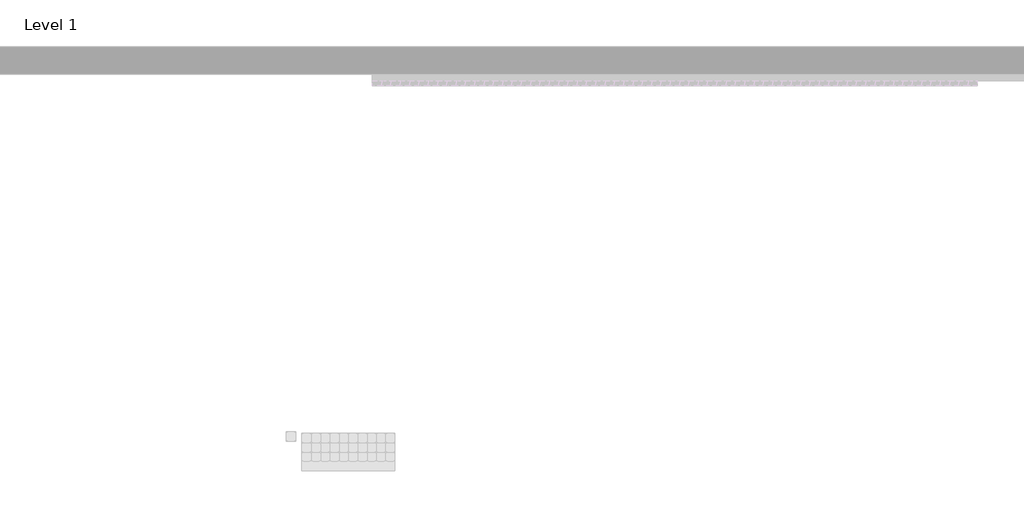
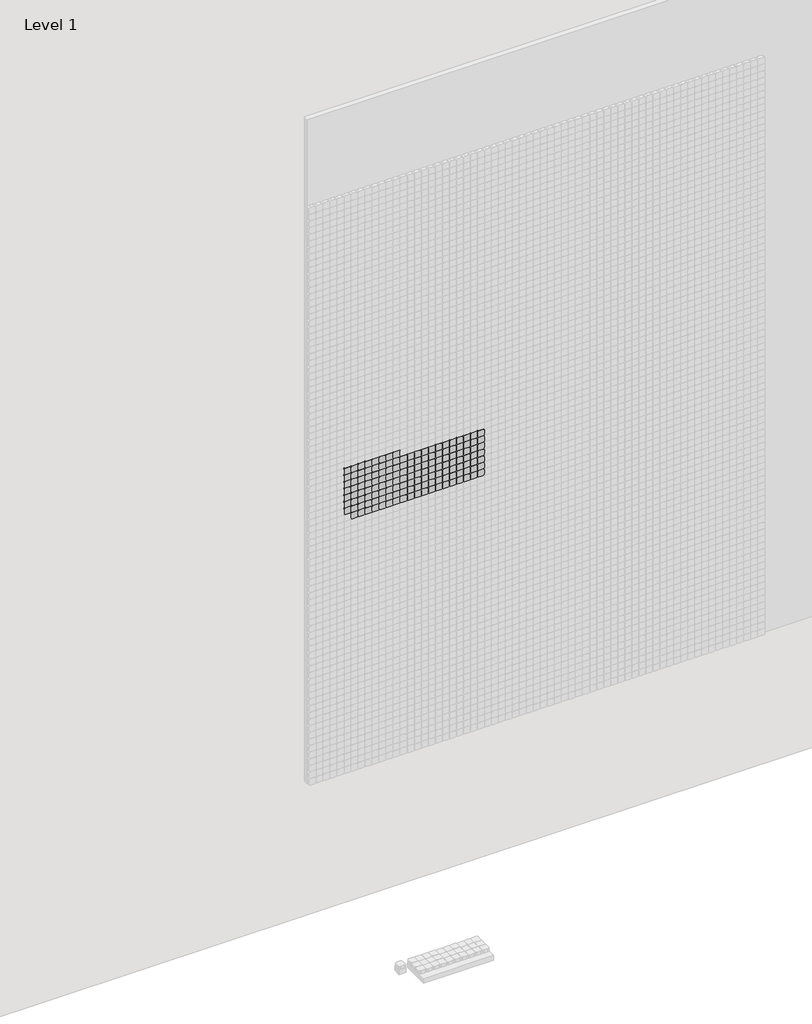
# One storey, part 15 of 71: 147 proxies.
"""IFC4 building model written with IfcOpenShell, lengths in millimetres."""

from ifc_helpers import new_model, si_unit, origin, place, context, project, spatial, transform, mapped, element, save
from components import generic_models_afde289c

model = new_model("IFC4")

# Units and contexts
model_context = context("Model", 3, world=origin())
ifc_project = project(units=[si_unit("LENGTHUNIT", "METRE", prefix="MILLI")], contexts=[model_context])

# Site, building, storey
site = spatial("IfcSite", under=ifc_project)
building = spatial("IfcBuilding", under=site)
storey = spatial("IfcBuildingStorey", under=building, Name="Level 1", Elevation=0.0)

# Proxies
placement = place(None, origin())
generic_models_shape = generic_models_afde289c(model_context)
element("IfcBuildingElementProxy", 1, Name="Pixel_M : Pixel_M", ObjectType="Pixel_M : Pixel_M", at=placement, inside=storey, context=model_context, shape_type="MappedRepresentation", body=[
    mapped(generic_models_shape, transform((5362.4280941, -75.0, 3266.3566215), x_axis=(1.0, 0.0, 0.0), y_axis=(0.0, 0.0, 1.0), z_axis=(0.0, -1.0, 0.0))),
])
element("IfcBuildingElementProxy", 2, Name="Pixel_M : Pixel_M", ObjectType="Pixel_M : Pixel_M", at=placement, inside=storey, context=model_context, shape_type="MappedRepresentation", body=[
    mapped(generic_models_shape, transform((5312.4280941, -75.0, 3266.3566215), x_axis=(1.0, 0.0, 0.0), y_axis=(0.0, 0.0, 1.0), z_axis=(0.0, -1.0, 0.0))),
])
element("IfcBuildingElementProxy", 3, Name="Pixel_M : Pixel_M", ObjectType="Pixel_M : Pixel_M", at=placement, inside=storey, context=model_context, shape_type="MappedRepresentation", body=[
    mapped(generic_models_shape, transform((5262.4280941, -75.0, 3266.3566215), x_axis=(1.0, 0.0, 0.0), y_axis=(0.0, 0.0, 1.0), z_axis=(0.0, -1.0, 0.0))),
])
element("IfcBuildingElementProxy", 4, Name="Pixel_M : Pixel_M", ObjectType="Pixel_M : Pixel_M", at=placement, inside=storey, context=model_context, shape_type="MappedRepresentation", body=[
    mapped(generic_models_shape, transform((5212.4280941, -75.0, 3266.3566215), x_axis=(1.0, 0.0, 0.0), y_axis=(0.0, 0.0, 1.0), z_axis=(0.0, -1.0, 0.0))),
])
element("IfcBuildingElementProxy", 5, Name="Pixel_M : Pixel_M", ObjectType="Pixel_M : Pixel_M", at=placement, inside=storey, context=model_context, shape_type="MappedRepresentation", body=[
    mapped(generic_models_shape, transform((5162.4280941, -75.0, 3266.3566215), x_axis=(1.0, 0.0, 0.0), y_axis=(0.0, 0.0, 1.0), z_axis=(0.0, -1.0, 0.0))),
])
element("IfcBuildingElementProxy", 6, Name="Pixel_M : Pixel_M", ObjectType="Pixel_M : Pixel_M", at=placement, inside=storey, context=model_context, shape_type="MappedRepresentation", body=[
    mapped(generic_models_shape, transform((5112.4280941, -75.0, 3266.3566215), x_axis=(1.0, 0.0, 0.0), y_axis=(0.0, 0.0, 1.0), z_axis=(0.0, -1.0, 0.0))),
])
element("IfcBuildingElementProxy", 7, Name="Pixel_M : Pixel_M", ObjectType="Pixel_M : Pixel_M", at=placement, inside=storey, context=model_context, shape_type="MappedRepresentation", body=[
    mapped(generic_models_shape, transform((5062.4280941, -75.0, 3266.3566215), x_axis=(1.0, 0.0, 0.0), y_axis=(0.0, 0.0, 1.0), z_axis=(0.0, -1.0, 0.0))),
])
element("IfcBuildingElementProxy", 8, Name="Pixel_M : Pixel_M", ObjectType="Pixel_M : Pixel_M", at=placement, inside=storey, context=model_context, shape_type="MappedRepresentation", body=[
    mapped(generic_models_shape, transform((5012.4280941, -75.0, 3266.3566215), x_axis=(1.0, 0.0, 0.0), y_axis=(0.0, 0.0, 1.0), z_axis=(0.0, -1.0, 0.0))),
])
element("IfcBuildingElementProxy", 9, Name="Pixel_M : Pixel_M", ObjectType="Pixel_M : Pixel_M", at=placement, inside=storey, context=model_context, shape_type="MappedRepresentation", body=[
    mapped(generic_models_shape, transform((5962.4280941, -75.0, 3216.3566215), x_axis=(1.0, 0.0, 0.0), y_axis=(0.0, 0.0, 1.0), z_axis=(0.0, -1.0, 0.0))),
])
element("IfcBuildingElementProxy", 10, Name="Pixel_M : Pixel_M", ObjectType="Pixel_M : Pixel_M", at=placement, inside=storey, context=model_context, shape_type="MappedRepresentation", body=[
    mapped(generic_models_shape, transform((5912.4280941, -75.0, 3216.3566215), x_axis=(1.0, 0.0, 0.0), y_axis=(0.0, 0.0, 1.0), z_axis=(0.0, -1.0, 0.0))),
])
element("IfcBuildingElementProxy", 11, Name="Pixel_M : Pixel_M", ObjectType="Pixel_M : Pixel_M", at=placement, inside=storey, context=model_context, shape_type="MappedRepresentation", body=[
    mapped(generic_models_shape, transform((5862.4280941, -75.0, 3216.3566215), x_axis=(1.0, 0.0, 0.0), y_axis=(0.0, 0.0, 1.0), z_axis=(0.0, -1.0, 0.0))),
])
element("IfcBuildingElementProxy", 12, Name="Pixel_M : Pixel_M", ObjectType="Pixel_M : Pixel_M", at=placement, inside=storey, context=model_context, shape_type="MappedRepresentation", body=[
    mapped(generic_models_shape, transform((5812.4280941, -75.0, 3216.3566215), x_axis=(1.0, 0.0, 0.0), y_axis=(0.0, 0.0, 1.0), z_axis=(0.0, -1.0, 0.0))),
])
element("IfcBuildingElementProxy", 13, Name="Pixel_M : Pixel_M", ObjectType="Pixel_M : Pixel_M", at=placement, inside=storey, context=model_context, shape_type="MappedRepresentation", body=[
    mapped(generic_models_shape, transform((5762.4280941, -75.0, 3216.3566215), x_axis=(1.0, 0.0, 0.0), y_axis=(0.0, 0.0, 1.0), z_axis=(0.0, -1.0, 0.0))),
])
element("IfcBuildingElementProxy", 14, Name="Pixel_M : Pixel_M", ObjectType="Pixel_M : Pixel_M", at=placement, inside=storey, context=model_context, shape_type="MappedRepresentation", body=[
    mapped(generic_models_shape, transform((5712.4280941, -75.0, 3216.3566215), x_axis=(1.0, 0.0, 0.0), y_axis=(0.0, 0.0, 1.0), z_axis=(0.0, -1.0, 0.0))),
])
element("IfcBuildingElementProxy", 15, Name="Pixel_M : Pixel_M", ObjectType="Pixel_M : Pixel_M", at=placement, inside=storey, context=model_context, shape_type="MappedRepresentation", body=[
    mapped(generic_models_shape, transform((5662.4280941, -75.0, 3216.3566215), x_axis=(1.0, 0.0, 0.0), y_axis=(0.0, 0.0, 1.0), z_axis=(0.0, -1.0, 0.0))),
])
element("IfcBuildingElementProxy", 16, Name="Pixel_M : Pixel_M", ObjectType="Pixel_M : Pixel_M", at=placement, inside=storey, context=model_context, shape_type="MappedRepresentation", body=[
    mapped(generic_models_shape, transform((5612.4280941, -75.0, 3216.3566215), x_axis=(1.0, 0.0, 0.0), y_axis=(0.0, 0.0, 1.0), z_axis=(0.0, -1.0, 0.0))),
])
element("IfcBuildingElementProxy", 17, Name="Pixel_M : Pixel_M", ObjectType="Pixel_M : Pixel_M", at=placement, inside=storey, context=model_context, shape_type="MappedRepresentation", body=[
    mapped(generic_models_shape, transform((5562.4280941, -75.0, 3216.3566215), x_axis=(1.0, 0.0, 0.0), y_axis=(0.0, 0.0, 1.0), z_axis=(0.0, -1.0, 0.0))),
])
element("IfcBuildingElementProxy", 18, Name="Pixel_M : Pixel_M", ObjectType="Pixel_M : Pixel_M", at=placement, inside=storey, context=model_context, shape_type="MappedRepresentation", body=[
    mapped(generic_models_shape, transform((5512.4280941, -75.0, 3216.3566215), x_axis=(1.0, 0.0, 0.0), y_axis=(0.0, 0.0, 1.0), z_axis=(0.0, -1.0, 0.0))),
])
element("IfcBuildingElementProxy", 19, Name="Pixel_M : Pixel_M", ObjectType="Pixel_M : Pixel_M", at=placement, inside=storey, context=model_context, shape_type="MappedRepresentation", body=[
    mapped(generic_models_shape, transform((5462.4280941, -75.0, 3216.3566215), x_axis=(1.0, 0.0, 0.0), y_axis=(0.0, 0.0, 1.0), z_axis=(0.0, -1.0, 0.0))),
])
element("IfcBuildingElementProxy", 20, Name="Pixel_M : Pixel_M", ObjectType="Pixel_M : Pixel_M", at=placement, inside=storey, context=model_context, shape_type="MappedRepresentation", body=[
    mapped(generic_models_shape, transform((5412.4280941, -75.0, 3216.3566215), x_axis=(1.0, 0.0, 0.0), y_axis=(0.0, 0.0, 1.0), z_axis=(0.0, -1.0, 0.0))),
])
element("IfcBuildingElementProxy", 21, Name="Pixel_M : Pixel_M", ObjectType="Pixel_M : Pixel_M", at=placement, inside=storey, context=model_context, shape_type="MappedRepresentation", body=[
    mapped(generic_models_shape, transform((5362.4280941, -75.0, 3216.3566215), x_axis=(1.0, 0.0, 0.0), y_axis=(0.0, 0.0, 1.0), z_axis=(0.0, -1.0, 0.0))),
])
element("IfcBuildingElementProxy", 22, Name="Pixel_M : Pixel_M", ObjectType="Pixel_M : Pixel_M", at=placement, inside=storey, context=model_context, shape_type="MappedRepresentation", body=[
    mapped(generic_models_shape, transform((5312.4280941, -75.0, 3216.3566215), x_axis=(1.0, 0.0, 0.0), y_axis=(0.0, 0.0, 1.0), z_axis=(0.0, -1.0, 0.0))),
])
element("IfcBuildingElementProxy", 23, Name="Pixel_M : Pixel_M", ObjectType="Pixel_M : Pixel_M", at=placement, inside=storey, context=model_context, shape_type="MappedRepresentation", body=[
    mapped(generic_models_shape, transform((5262.4280941, -75.0, 3216.3566215), x_axis=(1.0, 0.0, 0.0), y_axis=(0.0, 0.0, 1.0), z_axis=(0.0, -1.0, 0.0))),
])
element("IfcBuildingElementProxy", 24, Name="Pixel_M : Pixel_M", ObjectType="Pixel_M : Pixel_M", at=placement, inside=storey, context=model_context, shape_type="MappedRepresentation", body=[
    mapped(generic_models_shape, transform((5212.4280941, -75.0, 3216.3566215), x_axis=(1.0, 0.0, 0.0), y_axis=(0.0, 0.0, 1.0), z_axis=(0.0, -1.0, 0.0))),
])
element("IfcBuildingElementProxy", 25, Name="Pixel_M : Pixel_M", ObjectType="Pixel_M : Pixel_M", at=placement, inside=storey, context=model_context, shape_type="MappedRepresentation", body=[
    mapped(generic_models_shape, transform((5162.4280941, -75.0, 3216.3566215), x_axis=(1.0, 0.0, 0.0), y_axis=(0.0, 0.0, 1.0), z_axis=(0.0, -1.0, 0.0))),
])
element("IfcBuildingElementProxy", 26, Name="Pixel_M : Pixel_M", ObjectType="Pixel_M : Pixel_M", at=placement, inside=storey, context=model_context, shape_type="MappedRepresentation", body=[
    mapped(generic_models_shape, transform((5112.4280941, -75.0, 3216.3566215), x_axis=(1.0, 0.0, 0.0), y_axis=(0.0, 0.0, 1.0), z_axis=(0.0, -1.0, 0.0))),
])
element("IfcBuildingElementProxy", 27, Name="Pixel_M : Pixel_M", ObjectType="Pixel_M : Pixel_M", at=placement, inside=storey, context=model_context, shape_type="MappedRepresentation", body=[
    mapped(generic_models_shape, transform((5062.4280941, -75.0, 3216.3566215), x_axis=(1.0, 0.0, 0.0), y_axis=(0.0, 0.0, 1.0), z_axis=(0.0, -1.0, 0.0))),
])
element("IfcBuildingElementProxy", 28, Name="Pixel_M : Pixel_M", ObjectType="Pixel_M : Pixel_M", at=placement, inside=storey, context=model_context, shape_type="MappedRepresentation", body=[
    mapped(generic_models_shape, transform((5012.4280941, -75.0, 3216.3566215), x_axis=(1.0, 0.0, 0.0), y_axis=(0.0, 0.0, 1.0), z_axis=(0.0, -1.0, 0.0))),
])
element("IfcBuildingElementProxy", 29, Name="Pixel_M : Pixel_M", ObjectType="Pixel_M : Pixel_M", at=placement, inside=storey, context=model_context, shape_type="MappedRepresentation", body=[
    mapped(generic_models_shape, transform((5962.4280941, -75.0, 3166.3566215), x_axis=(1.0, 0.0, 0.0), y_axis=(0.0, 0.0, 1.0), z_axis=(0.0, -1.0, 0.0))),
])
element("IfcBuildingElementProxy", 30, Name="Pixel_M : Pixel_M", ObjectType="Pixel_M : Pixel_M", at=placement, inside=storey, context=model_context, shape_type="MappedRepresentation", body=[
    mapped(generic_models_shape, transform((5912.4280941, -75.0, 3166.3566215), x_axis=(1.0, 0.0, 0.0), y_axis=(0.0, 0.0, 1.0), z_axis=(0.0, -1.0, 0.0))),
])
element("IfcBuildingElementProxy", 31, Name="Pixel_M : Pixel_M", ObjectType="Pixel_M : Pixel_M", at=placement, inside=storey, context=model_context, shape_type="MappedRepresentation", body=[
    mapped(generic_models_shape, transform((5862.4280941, -75.0, 3166.3566215), x_axis=(1.0, 0.0, 0.0), y_axis=(0.0, 0.0, 1.0), z_axis=(0.0, -1.0, 0.0))),
])
element("IfcBuildingElementProxy", 32, Name="Pixel_M : Pixel_M", ObjectType="Pixel_M : Pixel_M", at=placement, inside=storey, context=model_context, shape_type="MappedRepresentation", body=[
    mapped(generic_models_shape, transform((5812.4280941, -75.0, 3166.3566215), x_axis=(1.0, 0.0, 0.0), y_axis=(0.0, 0.0, 1.0), z_axis=(0.0, -1.0, 0.0))),
])
element("IfcBuildingElementProxy", 33, Name="Pixel_M : Pixel_M", ObjectType="Pixel_M : Pixel_M", at=placement, inside=storey, context=model_context, shape_type="MappedRepresentation", body=[
    mapped(generic_models_shape, transform((5762.4280941, -75.0, 3166.3566215), x_axis=(1.0, 0.0, 0.0), y_axis=(0.0, 0.0, 1.0), z_axis=(0.0, -1.0, 0.0))),
])
element("IfcBuildingElementProxy", 34, Name="Pixel_M : Pixel_M", ObjectType="Pixel_M : Pixel_M", at=placement, inside=storey, context=model_context, shape_type="MappedRepresentation", body=[
    mapped(generic_models_shape, transform((5712.4280941, -75.0, 3166.3566215), x_axis=(1.0, 0.0, 0.0), y_axis=(0.0, 0.0, 1.0), z_axis=(0.0, -1.0, 0.0))),
])
element("IfcBuildingElementProxy", 35, Name="Pixel_M : Pixel_M", ObjectType="Pixel_M : Pixel_M", at=placement, inside=storey, context=model_context, shape_type="MappedRepresentation", body=[
    mapped(generic_models_shape, transform((5662.4280941, -75.0, 3166.3566215), x_axis=(1.0, 0.0, 0.0), y_axis=(0.0, 0.0, 1.0), z_axis=(0.0, -1.0, 0.0))),
])
element("IfcBuildingElementProxy", 36, Name="Pixel_M : Pixel_M", ObjectType="Pixel_M : Pixel_M", at=placement, inside=storey, context=model_context, shape_type="MappedRepresentation", body=[
    mapped(generic_models_shape, transform((5612.4280941, -75.0, 3166.3566215), x_axis=(1.0, 0.0, 0.0), y_axis=(0.0, 0.0, 1.0), z_axis=(0.0, -1.0, 0.0))),
])
element("IfcBuildingElementProxy", 37, Name="Pixel_M : Pixel_M", ObjectType="Pixel_M : Pixel_M", at=placement, inside=storey, context=model_context, shape_type="MappedRepresentation", body=[
    mapped(generic_models_shape, transform((5562.4280941, -75.0, 3166.3566215), x_axis=(1.0, 0.0, 0.0), y_axis=(0.0, 0.0, 1.0), z_axis=(0.0, -1.0, 0.0))),
])
element("IfcBuildingElementProxy", 38, Name="Pixel_M : Pixel_M", ObjectType="Pixel_M : Pixel_M", at=placement, inside=storey, context=model_context, shape_type="MappedRepresentation", body=[
    mapped(generic_models_shape, transform((5512.4280941, -75.0, 3166.3566215), x_axis=(1.0, 0.0, 0.0), y_axis=(0.0, 0.0, 1.0), z_axis=(0.0, -1.0, 0.0))),
])
element("IfcBuildingElementProxy", 39, Name="Pixel_M : Pixel_M", ObjectType="Pixel_M : Pixel_M", at=placement, inside=storey, context=model_context, shape_type="MappedRepresentation", body=[
    mapped(generic_models_shape, transform((5462.4280941, -75.0, 3166.3566215), x_axis=(1.0, 0.0, 0.0), y_axis=(0.0, 0.0, 1.0), z_axis=(0.0, -1.0, 0.0))),
])
element("IfcBuildingElementProxy", 40, Name="Pixel_M : Pixel_M", ObjectType="Pixel_M : Pixel_M", at=placement, inside=storey, context=model_context, shape_type="MappedRepresentation", body=[
    mapped(generic_models_shape, transform((5412.4280941, -75.0, 3166.3566215), x_axis=(1.0, 0.0, 0.0), y_axis=(0.0, 0.0, 1.0), z_axis=(0.0, -1.0, 0.0))),
])
element("IfcBuildingElementProxy", 41, Name="Pixel_M : Pixel_M", ObjectType="Pixel_M : Pixel_M", at=placement, inside=storey, context=model_context, shape_type="MappedRepresentation", body=[
    mapped(generic_models_shape, transform((5362.4280941, -75.0, 3166.3566215), x_axis=(1.0, 0.0, 0.0), y_axis=(0.0, 0.0, 1.0), z_axis=(0.0, -1.0, 0.0))),
])
element("IfcBuildingElementProxy", 42, Name="Pixel_M : Pixel_M", ObjectType="Pixel_M : Pixel_M", at=placement, inside=storey, context=model_context, shape_type="MappedRepresentation", body=[
    mapped(generic_models_shape, transform((5312.4280941, -75.0, 3166.3566215), x_axis=(1.0, 0.0, 0.0), y_axis=(0.0, 0.0, 1.0), z_axis=(0.0, -1.0, 0.0))),
])
element("IfcBuildingElementProxy", 43, Name="Pixel_M : Pixel_M", ObjectType="Pixel_M : Pixel_M", at=placement, inside=storey, context=model_context, shape_type="MappedRepresentation", body=[
    mapped(generic_models_shape, transform((5262.4280941, -75.0, 3166.3566215), x_axis=(1.0, 0.0, 0.0), y_axis=(0.0, 0.0, 1.0), z_axis=(0.0, -1.0, 0.0))),
])
element("IfcBuildingElementProxy", 44, Name="Pixel_M : Pixel_M", ObjectType="Pixel_M : Pixel_M", at=placement, inside=storey, context=model_context, shape_type="MappedRepresentation", body=[
    mapped(generic_models_shape, transform((5212.4280941, -75.0, 3166.3566215), x_axis=(1.0, 0.0, 0.0), y_axis=(0.0, 0.0, 1.0), z_axis=(0.0, -1.0, 0.0))),
])
element("IfcBuildingElementProxy", 45, Name="Pixel_M : Pixel_M", ObjectType="Pixel_M : Pixel_M", at=placement, inside=storey, context=model_context, shape_type="MappedRepresentation", body=[
    mapped(generic_models_shape, transform((5162.4280941, -75.0, 3166.3566215), x_axis=(1.0, 0.0, 0.0), y_axis=(0.0, 0.0, 1.0), z_axis=(0.0, -1.0, 0.0))),
])
element("IfcBuildingElementProxy", 46, Name="Pixel_M : Pixel_M", ObjectType="Pixel_M : Pixel_M", at=placement, inside=storey, context=model_context, shape_type="MappedRepresentation", body=[
    mapped(generic_models_shape, transform((5112.4280941, -75.0, 3166.3566215), x_axis=(1.0, 0.0, 0.0), y_axis=(0.0, 0.0, 1.0), z_axis=(0.0, -1.0, 0.0))),
])
element("IfcBuildingElementProxy", 47, Name="Pixel_M : Pixel_M", ObjectType="Pixel_M : Pixel_M", at=placement, inside=storey, context=model_context, shape_type="MappedRepresentation", body=[
    mapped(generic_models_shape, transform((5062.4280941, -75.0, 3166.3566215), x_axis=(1.0, 0.0, 0.0), y_axis=(0.0, 0.0, 1.0), z_axis=(0.0, -1.0, 0.0))),
])
element("IfcBuildingElementProxy", 48, Name="Pixel_M : Pixel_M", ObjectType="Pixel_M : Pixel_M", at=placement, inside=storey, context=model_context, shape_type="MappedRepresentation", body=[
    mapped(generic_models_shape, transform((5012.4280941, -75.0, 3166.3566215), x_axis=(1.0, 0.0, 0.0), y_axis=(0.0, 0.0, 1.0), z_axis=(0.0, -1.0, 0.0))),
])
element("IfcBuildingElementProxy", 49, Name="Pixel_M : Pixel_M", ObjectType="Pixel_M : Pixel_M", at=placement, inside=storey, context=model_context, shape_type="MappedRepresentation", body=[
    mapped(generic_models_shape, transform((5962.4280941, -75.0, 3116.3566215), x_axis=(1.0, 0.0, 0.0), y_axis=(0.0, 0.0, 1.0), z_axis=(0.0, -1.0, 0.0))),
])
element("IfcBuildingElementProxy", 50, Name="Pixel_M : Pixel_M", ObjectType="Pixel_M : Pixel_M", at=placement, inside=storey, context=model_context, shape_type="MappedRepresentation", body=[
    mapped(generic_models_shape, transform((5912.4280941, -75.0, 3116.3566215), x_axis=(1.0, 0.0, 0.0), y_axis=(0.0, 0.0, 1.0), z_axis=(0.0, -1.0, 0.0))),
])
element("IfcBuildingElementProxy", 51, Name="Pixel_M : Pixel_M", ObjectType="Pixel_M : Pixel_M", at=placement, inside=storey, context=model_context, shape_type="MappedRepresentation", body=[
    mapped(generic_models_shape, transform((5862.4280941, -75.0, 3116.3566215), x_axis=(1.0, 0.0, 0.0), y_axis=(0.0, 0.0, 1.0), z_axis=(0.0, -1.0, 0.0))),
])
element("IfcBuildingElementProxy", 52, Name="Pixel_M : Pixel_M", ObjectType="Pixel_M : Pixel_M", at=placement, inside=storey, context=model_context, shape_type="MappedRepresentation", body=[
    mapped(generic_models_shape, transform((5812.4280941, -75.0, 3116.3566215), x_axis=(1.0, 0.0, 0.0), y_axis=(0.0, 0.0, 1.0), z_axis=(0.0, -1.0, 0.0))),
])
element("IfcBuildingElementProxy", 53, Name="Pixel_M : Pixel_M", ObjectType="Pixel_M : Pixel_M", at=placement, inside=storey, context=model_context, shape_type="MappedRepresentation", body=[
    mapped(generic_models_shape, transform((5762.4280941, -75.0, 3116.3566215), x_axis=(1.0, 0.0, 0.0), y_axis=(0.0, 0.0, 1.0), z_axis=(0.0, -1.0, 0.0))),
])
element("IfcBuildingElementProxy", 54, Name="Pixel_M : Pixel_M", ObjectType="Pixel_M : Pixel_M", at=placement, inside=storey, context=model_context, shape_type="MappedRepresentation", body=[
    mapped(generic_models_shape, transform((5712.4280941, -75.0, 3116.3566215), x_axis=(1.0, 0.0, 0.0), y_axis=(0.0, 0.0, 1.0), z_axis=(0.0, -1.0, 0.0))),
])
element("IfcBuildingElementProxy", 55, Name="Pixel_M : Pixel_M", ObjectType="Pixel_M : Pixel_M", at=placement, inside=storey, context=model_context, shape_type="MappedRepresentation", body=[
    mapped(generic_models_shape, transform((5662.4280941, -75.0, 3116.3566215), x_axis=(1.0, 0.0, 0.0), y_axis=(0.0, 0.0, 1.0), z_axis=(0.0, -1.0, 0.0))),
])
element("IfcBuildingElementProxy", 56, Name="Pixel_M : Pixel_M", ObjectType="Pixel_M : Pixel_M", at=placement, inside=storey, context=model_context, shape_type="MappedRepresentation", body=[
    mapped(generic_models_shape, transform((5612.4280941, -75.0, 3116.3566215), x_axis=(1.0, 0.0, 0.0), y_axis=(0.0, 0.0, 1.0), z_axis=(0.0, -1.0, 0.0))),
])
element("IfcBuildingElementProxy", 57, Name="Pixel_M : Pixel_M", ObjectType="Pixel_M : Pixel_M", at=placement, inside=storey, context=model_context, shape_type="MappedRepresentation", body=[
    mapped(generic_models_shape, transform((5562.4280941, -75.0, 3116.3566215), x_axis=(1.0, 0.0, 0.0), y_axis=(0.0, 0.0, 1.0), z_axis=(0.0, -1.0, 0.0))),
])
element("IfcBuildingElementProxy", 58, Name="Pixel_M : Pixel_M", ObjectType="Pixel_M : Pixel_M", at=placement, inside=storey, context=model_context, shape_type="MappedRepresentation", body=[
    mapped(generic_models_shape, transform((5512.4280941, -75.0, 3116.3566215), x_axis=(1.0, 0.0, 0.0), y_axis=(0.0, 0.0, 1.0), z_axis=(0.0, -1.0, 0.0))),
])
element("IfcBuildingElementProxy", 59, Name="Pixel_M : Pixel_M", ObjectType="Pixel_M : Pixel_M", at=placement, inside=storey, context=model_context, shape_type="MappedRepresentation", body=[
    mapped(generic_models_shape, transform((5462.4280941, -75.0, 3116.3566215), x_axis=(1.0, 0.0, 0.0), y_axis=(0.0, 0.0, 1.0), z_axis=(0.0, -1.0, 0.0))),
])
element("IfcBuildingElementProxy", 60, Name="Pixel_M : Pixel_M", ObjectType="Pixel_M : Pixel_M", at=placement, inside=storey, context=model_context, shape_type="MappedRepresentation", body=[
    mapped(generic_models_shape, transform((5412.4280941, -75.0, 3116.3566215), x_axis=(1.0, 0.0, 0.0), y_axis=(0.0, 0.0, 1.0), z_axis=(0.0, -1.0, 0.0))),
])
element("IfcBuildingElementProxy", 61, Name="Pixel_M : Pixel_M", ObjectType="Pixel_M : Pixel_M", at=placement, inside=storey, context=model_context, shape_type="MappedRepresentation", body=[
    mapped(generic_models_shape, transform((5362.4280941, -75.0, 3116.3566215), x_axis=(1.0, 0.0, 0.0), y_axis=(0.0, 0.0, 1.0), z_axis=(0.0, -1.0, 0.0))),
])
element("IfcBuildingElementProxy", 62, Name="Pixel_M : Pixel_M", ObjectType="Pixel_M : Pixel_M", at=placement, inside=storey, context=model_context, shape_type="MappedRepresentation", body=[
    mapped(generic_models_shape, transform((5312.4280941, -75.0, 3116.3566215), x_axis=(1.0, 0.0, 0.0), y_axis=(0.0, 0.0, 1.0), z_axis=(0.0, -1.0, 0.0))),
])
element("IfcBuildingElementProxy", 63, Name="Pixel_M : Pixel_M", ObjectType="Pixel_M : Pixel_M", at=placement, inside=storey, context=model_context, shape_type="MappedRepresentation", body=[
    mapped(generic_models_shape, transform((5262.4280941, -75.0, 3116.3566215), x_axis=(1.0, 0.0, 0.0), y_axis=(0.0, 0.0, 1.0), z_axis=(0.0, -1.0, 0.0))),
])
element("IfcBuildingElementProxy", 64, Name="Pixel_M : Pixel_M", ObjectType="Pixel_M : Pixel_M", at=placement, inside=storey, context=model_context, shape_type="MappedRepresentation", body=[
    mapped(generic_models_shape, transform((5212.4280941, -75.0, 3116.3566215), x_axis=(1.0, 0.0, 0.0), y_axis=(0.0, 0.0, 1.0), z_axis=(0.0, -1.0, 0.0))),
])
element("IfcBuildingElementProxy", 65, Name="Pixel_M : Pixel_M", ObjectType="Pixel_M : Pixel_M", at=placement, inside=storey, context=model_context, shape_type="MappedRepresentation", body=[
    mapped(generic_models_shape, transform((5162.4280941, -75.0, 3116.3566215), x_axis=(1.0, 0.0, 0.0), y_axis=(0.0, 0.0, 1.0), z_axis=(0.0, -1.0, 0.0))),
])
element("IfcBuildingElementProxy", 66, Name="Pixel_M : Pixel_M", ObjectType="Pixel_M : Pixel_M", at=placement, inside=storey, context=model_context, shape_type="MappedRepresentation", body=[
    mapped(generic_models_shape, transform((5112.4280941, -75.0, 3116.3566215), x_axis=(1.0, 0.0, 0.0), y_axis=(0.0, 0.0, 1.0), z_axis=(0.0, -1.0, 0.0))),
])
element("IfcBuildingElementProxy", 67, Name="Pixel_M : Pixel_M", ObjectType="Pixel_M : Pixel_M", at=placement, inside=storey, context=model_context, shape_type="MappedRepresentation", body=[
    mapped(generic_models_shape, transform((5062.4280941, -75.0, 3116.3566215), x_axis=(1.0, 0.0, 0.0), y_axis=(0.0, 0.0, 1.0), z_axis=(0.0, -1.0, 0.0))),
])
element("IfcBuildingElementProxy", 68, Name="Pixel_M : Pixel_M", ObjectType="Pixel_M : Pixel_M", at=placement, inside=storey, context=model_context, shape_type="MappedRepresentation", body=[
    mapped(generic_models_shape, transform((5012.4280941, -75.0, 3116.3566215), x_axis=(1.0, 0.0, 0.0), y_axis=(0.0, 0.0, 1.0), z_axis=(0.0, -1.0, 0.0))),
])
element("IfcBuildingElementProxy", 69, Name="Pixel_M : Pixel_M", ObjectType="Pixel_M : Pixel_M", at=placement, inside=storey, context=model_context, shape_type="MappedRepresentation", body=[
    mapped(generic_models_shape, transform((5962.4280941, -75.0, 3066.3566215), x_axis=(1.0, 0.0, 0.0), y_axis=(0.0, 0.0, 1.0), z_axis=(0.0, -1.0, 0.0))),
])
element("IfcBuildingElementProxy", 70, Name="Pixel_M : Pixel_M", ObjectType="Pixel_M : Pixel_M", at=placement, inside=storey, context=model_context, shape_type="MappedRepresentation", body=[
    mapped(generic_models_shape, transform((5912.4280941, -75.0, 3066.3566215), x_axis=(1.0, 0.0, 0.0), y_axis=(0.0, 0.0, 1.0), z_axis=(0.0, -1.0, 0.0))),
])
element("IfcBuildingElementProxy", 71, Name="Pixel_M : Pixel_M", ObjectType="Pixel_M : Pixel_M", at=placement, inside=storey, context=model_context, shape_type="MappedRepresentation", body=[
    mapped(generic_models_shape, transform((5862.4280941, -75.0, 3066.3566215), x_axis=(1.0, 0.0, 0.0), y_axis=(0.0, 0.0, 1.0), z_axis=(0.0, -1.0, 0.0))),
])
element("IfcBuildingElementProxy", 72, Name="Pixel_M : Pixel_M", ObjectType="Pixel_M : Pixel_M", at=placement, inside=storey, context=model_context, shape_type="MappedRepresentation", body=[
    mapped(generic_models_shape, transform((5812.4280941, -75.0, 3066.3566215), x_axis=(1.0, 0.0, 0.0), y_axis=(0.0, 0.0, 1.0), z_axis=(0.0, -1.0, 0.0))),
])
element("IfcBuildingElementProxy", 73, Name="Pixel_M : Pixel_M", ObjectType="Pixel_M : Pixel_M", at=placement, inside=storey, context=model_context, shape_type="MappedRepresentation", body=[
    mapped(generic_models_shape, transform((5762.4280941, -75.0, 3066.3566215), x_axis=(1.0, 0.0, 0.0), y_axis=(0.0, 0.0, 1.0), z_axis=(0.0, -1.0, 0.0))),
])
element("IfcBuildingElementProxy", 74, Name="Pixel_M : Pixel_M", ObjectType="Pixel_M : Pixel_M", at=placement, inside=storey, context=model_context, shape_type="MappedRepresentation", body=[
    mapped(generic_models_shape, transform((5712.4280941, -75.0, 3066.3566215), x_axis=(1.0, 0.0, 0.0), y_axis=(0.0, 0.0, 1.0), z_axis=(0.0, -1.0, 0.0))),
])
element("IfcBuildingElementProxy", 75, Name="Pixel_M : Pixel_M", ObjectType="Pixel_M : Pixel_M", at=placement, inside=storey, context=model_context, shape_type="MappedRepresentation", body=[
    mapped(generic_models_shape, transform((5662.4280941, -75.0, 3066.3566215), x_axis=(1.0, 0.0, 0.0), y_axis=(0.0, 0.0, 1.0), z_axis=(0.0, -1.0, 0.0))),
])
element("IfcBuildingElementProxy", 76, Name="Pixel_M : Pixel_M", ObjectType="Pixel_M : Pixel_M", at=placement, inside=storey, context=model_context, shape_type="MappedRepresentation", body=[
    mapped(generic_models_shape, transform((5612.4280941, -75.0, 3066.3566215), x_axis=(1.0, 0.0, 0.0), y_axis=(0.0, 0.0, 1.0), z_axis=(0.0, -1.0, 0.0))),
])
element("IfcBuildingElementProxy", 77, Name="Pixel_M : Pixel_M", ObjectType="Pixel_M : Pixel_M", at=placement, inside=storey, context=model_context, shape_type="MappedRepresentation", body=[
    mapped(generic_models_shape, transform((5562.4280941, -75.0, 3066.3566215), x_axis=(1.0, 0.0, 0.0), y_axis=(0.0, 0.0, 1.0), z_axis=(0.0, -1.0, 0.0))),
])
element("IfcBuildingElementProxy", 78, Name="Pixel_M : Pixel_M", ObjectType="Pixel_M : Pixel_M", at=placement, inside=storey, context=model_context, shape_type="MappedRepresentation", body=[
    mapped(generic_models_shape, transform((5512.4280941, -75.0, 3066.3566215), x_axis=(1.0, 0.0, 0.0), y_axis=(0.0, 0.0, 1.0), z_axis=(0.0, -1.0, 0.0))),
])
element("IfcBuildingElementProxy", 79, Name="Pixel_M : Pixel_M", ObjectType="Pixel_M : Pixel_M", at=placement, inside=storey, context=model_context, shape_type="MappedRepresentation", body=[
    mapped(generic_models_shape, transform((5462.4280941, -75.0, 3066.3566215), x_axis=(1.0, 0.0, 0.0), y_axis=(0.0, 0.0, 1.0), z_axis=(0.0, -1.0, 0.0))),
])
element("IfcBuildingElementProxy", 80, Name="Pixel_M : Pixel_M", ObjectType="Pixel_M : Pixel_M", at=placement, inside=storey, context=model_context, shape_type="MappedRepresentation", body=[
    mapped(generic_models_shape, transform((5412.4280941, -75.0, 3066.3566215), x_axis=(1.0, 0.0, 0.0), y_axis=(0.0, 0.0, 1.0), z_axis=(0.0, -1.0, 0.0))),
])
element("IfcBuildingElementProxy", 81, Name="Pixel_M : Pixel_M", ObjectType="Pixel_M : Pixel_M", at=placement, inside=storey, context=model_context, shape_type="MappedRepresentation", body=[
    mapped(generic_models_shape, transform((5362.4280941, -75.0, 3066.3566215), x_axis=(1.0, 0.0, 0.0), y_axis=(0.0, 0.0, 1.0), z_axis=(0.0, -1.0, 0.0))),
])
element("IfcBuildingElementProxy", 82, Name="Pixel_M : Pixel_M", ObjectType="Pixel_M : Pixel_M", at=placement, inside=storey, context=model_context, shape_type="MappedRepresentation", body=[
    mapped(generic_models_shape, transform((5312.4280941, -75.0, 3066.3566215), x_axis=(1.0, 0.0, 0.0), y_axis=(0.0, 0.0, 1.0), z_axis=(0.0, -1.0, 0.0))),
])
element("IfcBuildingElementProxy", 83, Name="Pixel_M : Pixel_M", ObjectType="Pixel_M : Pixel_M", at=placement, inside=storey, context=model_context, shape_type="MappedRepresentation", body=[
    mapped(generic_models_shape, transform((5262.4280941, -75.0, 3066.3566215), x_axis=(1.0, 0.0, 0.0), y_axis=(0.0, 0.0, 1.0), z_axis=(0.0, -1.0, 0.0))),
])
element("IfcBuildingElementProxy", 84, Name="Pixel_M : Pixel_M", ObjectType="Pixel_M : Pixel_M", at=placement, inside=storey, context=model_context, shape_type="MappedRepresentation", body=[
    mapped(generic_models_shape, transform((5212.4280941, -75.0, 3066.3566215), x_axis=(1.0, 0.0, 0.0), y_axis=(0.0, 0.0, 1.0), z_axis=(0.0, -1.0, 0.0))),
])
element("IfcBuildingElementProxy", 85, Name="Pixel_M : Pixel_M", ObjectType="Pixel_M : Pixel_M", at=placement, inside=storey, context=model_context, shape_type="MappedRepresentation", body=[
    mapped(generic_models_shape, transform((5162.4280941, -75.0, 3066.3566215), x_axis=(1.0, 0.0, 0.0), y_axis=(0.0, 0.0, 1.0), z_axis=(0.0, -1.0, 0.0))),
])
element("IfcBuildingElementProxy", 86, Name="Pixel_M : Pixel_M", ObjectType="Pixel_M : Pixel_M", at=placement, inside=storey, context=model_context, shape_type="MappedRepresentation", body=[
    mapped(generic_models_shape, transform((5112.4280941, -75.0, 3066.3566215), x_axis=(1.0, 0.0, 0.0), y_axis=(0.0, 0.0, 1.0), z_axis=(0.0, -1.0, 0.0))),
])
element("IfcBuildingElementProxy", 87, Name="Pixel_M : Pixel_M", ObjectType="Pixel_M : Pixel_M", at=placement, inside=storey, context=model_context, shape_type="MappedRepresentation", body=[
    mapped(generic_models_shape, transform((5062.4280941, -75.0, 3066.3566215), x_axis=(1.0, 0.0, 0.0), y_axis=(0.0, 0.0, 1.0), z_axis=(0.0, -1.0, 0.0))),
])
element("IfcBuildingElementProxy", 88, Name="Pixel_M : Pixel_M", ObjectType="Pixel_M : Pixel_M", at=placement, inside=storey, context=model_context, shape_type="MappedRepresentation", body=[
    mapped(generic_models_shape, transform((5012.4280941, -75.0, 3066.3566215), x_axis=(1.0, 0.0, 0.0), y_axis=(0.0, 0.0, 1.0), z_axis=(0.0, -1.0, 0.0))),
])
element("IfcBuildingElementProxy", 89, Name="Pixel_M : Pixel_M", ObjectType="Pixel_M : Pixel_M", at=placement, inside=storey, context=model_context, shape_type="MappedRepresentation", body=[
    mapped(generic_models_shape, transform((5962.4280941, -75.0, 3016.3566215), x_axis=(1.0, 0.0, 0.0), y_axis=(0.0, 0.0, 1.0), z_axis=(0.0, -1.0, 0.0))),
])
element("IfcBuildingElementProxy", 90, Name="Pixel_M : Pixel_M", ObjectType="Pixel_M : Pixel_M", at=placement, inside=storey, context=model_context, shape_type="MappedRepresentation", body=[
    mapped(generic_models_shape, transform((5912.4280941, -75.0, 3016.3566215), x_axis=(1.0, 0.0, 0.0), y_axis=(0.0, 0.0, 1.0), z_axis=(0.0, -1.0, 0.0))),
])
element("IfcBuildingElementProxy", 91, Name="Pixel_M : Pixel_M", ObjectType="Pixel_M : Pixel_M", at=placement, inside=storey, context=model_context, shape_type="MappedRepresentation", body=[
    mapped(generic_models_shape, transform((5862.4280941, -75.0, 3016.3566215), x_axis=(1.0, 0.0, 0.0), y_axis=(0.0, 0.0, 1.0), z_axis=(0.0, -1.0, 0.0))),
])
element("IfcBuildingElementProxy", 92, Name="Pixel_M : Pixel_M", ObjectType="Pixel_M : Pixel_M", at=placement, inside=storey, context=model_context, shape_type="MappedRepresentation", body=[
    mapped(generic_models_shape, transform((5812.4280941, -75.0, 3016.3566215), x_axis=(1.0, 0.0, 0.0), y_axis=(0.0, 0.0, 1.0), z_axis=(0.0, -1.0, 0.0))),
])
element("IfcBuildingElementProxy", 93, Name="Pixel_M : Pixel_M", ObjectType="Pixel_M : Pixel_M", at=placement, inside=storey, context=model_context, shape_type="MappedRepresentation", body=[
    mapped(generic_models_shape, transform((5762.4280941, -75.0, 3016.3566215), x_axis=(1.0, 0.0, 0.0), y_axis=(0.0, 0.0, 1.0), z_axis=(0.0, -1.0, 0.0))),
])
element("IfcBuildingElementProxy", 94, Name="Pixel_M : Pixel_M", ObjectType="Pixel_M : Pixel_M", at=placement, inside=storey, context=model_context, shape_type="MappedRepresentation", body=[
    mapped(generic_models_shape, transform((5712.4280941, -75.0, 3016.3566215), x_axis=(1.0, 0.0, 0.0), y_axis=(0.0, 0.0, 1.0), z_axis=(0.0, -1.0, 0.0))),
])
element("IfcBuildingElementProxy", 95, Name="Pixel_M : Pixel_M", ObjectType="Pixel_M : Pixel_M", at=placement, inside=storey, context=model_context, shape_type="MappedRepresentation", body=[
    mapped(generic_models_shape, transform((5662.4280941, -75.0, 3016.3566215), x_axis=(1.0, 0.0, 0.0), y_axis=(0.0, 0.0, 1.0), z_axis=(0.0, -1.0, 0.0))),
])
element("IfcBuildingElementProxy", 96, Name="Pixel_M : Pixel_M", ObjectType="Pixel_M : Pixel_M", at=placement, inside=storey, context=model_context, shape_type="MappedRepresentation", body=[
    mapped(generic_models_shape, transform((5612.4280941, -75.0, 3016.3566215), x_axis=(1.0, 0.0, 0.0), y_axis=(0.0, 0.0, 1.0), z_axis=(0.0, -1.0, 0.0))),
])
element("IfcBuildingElementProxy", 97, Name="Pixel_M : Pixel_M", ObjectType="Pixel_M : Pixel_M", at=placement, inside=storey, context=model_context, shape_type="MappedRepresentation", body=[
    mapped(generic_models_shape, transform((5562.4280941, -75.0, 3016.3566215), x_axis=(1.0, 0.0, 0.0), y_axis=(0.0, 0.0, 1.0), z_axis=(0.0, -1.0, 0.0))),
])
element("IfcBuildingElementProxy", 98, Name="Pixel_M : Pixel_M", ObjectType="Pixel_M : Pixel_M", at=placement, inside=storey, context=model_context, shape_type="MappedRepresentation", body=[
    mapped(generic_models_shape, transform((5512.4280941, -75.0, 3016.3566215), x_axis=(1.0, 0.0, 0.0), y_axis=(0.0, 0.0, 1.0), z_axis=(0.0, -1.0, 0.0))),
])
element("IfcBuildingElementProxy", 99, Name="Pixel_M : Pixel_M", ObjectType="Pixel_M : Pixel_M", at=placement, inside=storey, context=model_context, shape_type="MappedRepresentation", body=[
    mapped(generic_models_shape, transform((5462.4280941, -75.0, 3016.3566215), x_axis=(1.0, 0.0, 0.0), y_axis=(0.0, 0.0, 1.0), z_axis=(0.0, -1.0, 0.0))),
])
element("IfcBuildingElementProxy", 100, Name="Pixel_M : Pixel_M", ObjectType="Pixel_M : Pixel_M", at=placement, inside=storey, context=model_context, shape_type="MappedRepresentation", body=[
    mapped(generic_models_shape, transform((5412.4280941, -75.0, 3016.3566215), x_axis=(1.0, 0.0, 0.0), y_axis=(0.0, 0.0, 1.0), z_axis=(0.0, -1.0, 0.0))),
])
element("IfcBuildingElementProxy", 101, Name="Pixel_M : Pixel_M", ObjectType="Pixel_M : Pixel_M", at=placement, inside=storey, context=model_context, shape_type="MappedRepresentation", body=[
    mapped(generic_models_shape, transform((5362.4280941, -75.0, 3016.3566215), x_axis=(1.0, 0.0, 0.0), y_axis=(0.0, 0.0, 1.0), z_axis=(0.0, -1.0, 0.0))),
])
element("IfcBuildingElementProxy", 102, Name="Pixel_M : Pixel_M", ObjectType="Pixel_M : Pixel_M", at=placement, inside=storey, context=model_context, shape_type="MappedRepresentation", body=[
    mapped(generic_models_shape, transform((5312.4280941, -75.0, 3016.3566215), x_axis=(1.0, 0.0, 0.0), y_axis=(0.0, 0.0, 1.0), z_axis=(0.0, -1.0, 0.0))),
])
element("IfcBuildingElementProxy", 103, Name="Pixel_M : Pixel_M", ObjectType="Pixel_M : Pixel_M", at=placement, inside=storey, context=model_context, shape_type="MappedRepresentation", body=[
    mapped(generic_models_shape, transform((5262.4280941, -75.0, 3016.3566215), x_axis=(1.0, 0.0, 0.0), y_axis=(0.0, 0.0, 1.0), z_axis=(0.0, -1.0, 0.0))),
])
element("IfcBuildingElementProxy", 104, Name="Pixel_M : Pixel_M", ObjectType="Pixel_M : Pixel_M", at=placement, inside=storey, context=model_context, shape_type="MappedRepresentation", body=[
    mapped(generic_models_shape, transform((5212.4280941, -75.0, 3016.3566215), x_axis=(1.0, 0.0, 0.0), y_axis=(0.0, 0.0, 1.0), z_axis=(0.0, -1.0, 0.0))),
])
element("IfcBuildingElementProxy", 105, Name="Pixel_M : Pixel_M", ObjectType="Pixel_M : Pixel_M", at=placement, inside=storey, context=model_context, shape_type="MappedRepresentation", body=[
    mapped(generic_models_shape, transform((5162.4280941, -75.0, 3016.3566215), x_axis=(1.0, 0.0, 0.0), y_axis=(0.0, 0.0, 1.0), z_axis=(0.0, -1.0, 0.0))),
])
element("IfcBuildingElementProxy", 106, Name="Pixel_M : Pixel_M", ObjectType="Pixel_M : Pixel_M", at=placement, inside=storey, context=model_context, shape_type="MappedRepresentation", body=[
    mapped(generic_models_shape, transform((5112.4280941, -75.0, 3016.3566215), x_axis=(1.0, 0.0, 0.0), y_axis=(0.0, 0.0, 1.0), z_axis=(0.0, -1.0, 0.0))),
])
element("IfcBuildingElementProxy", 107, Name="Pixel_M : Pixel_M", ObjectType="Pixel_M : Pixel_M", at=placement, inside=storey, context=model_context, shape_type="MappedRepresentation", body=[
    mapped(generic_models_shape, transform((5062.4280941, -75.0, 3016.3566215), x_axis=(1.0, 0.0, 0.0), y_axis=(0.0, 0.0, 1.0), z_axis=(0.0, -1.0, 0.0))),
])
element("IfcBuildingElementProxy", 108, Name="Pixel_M : Pixel_M", ObjectType="Pixel_M : Pixel_M", at=placement, inside=storey, context=model_context, shape_type="MappedRepresentation", body=[
    mapped(generic_models_shape, transform((5012.4280941, -75.0, 3016.3566215), x_axis=(1.0, 0.0, 0.0), y_axis=(0.0, 0.0, 1.0), z_axis=(0.0, -1.0, 0.0))),
])
element("IfcBuildingElementProxy", 109, Name="Pixel_M : Pixel_M", ObjectType="Pixel_M : Pixel_M", at=placement, inside=storey, context=model_context, shape_type="MappedRepresentation", body=[
    mapped(generic_models_shape, transform((5962.4280941, -75.0, 2966.3566215), x_axis=(1.0, 0.0, 0.0), y_axis=(0.0, 0.0, 1.0), z_axis=(0.0, -1.0, 0.0))),
])
element("IfcBuildingElementProxy", 110, Name="Pixel_M : Pixel_M", ObjectType="Pixel_M : Pixel_M", at=placement, inside=storey, context=model_context, shape_type="MappedRepresentation", body=[
    mapped(generic_models_shape, transform((5912.4280941, -75.0, 2966.3566215), x_axis=(1.0, 0.0, 0.0), y_axis=(0.0, 0.0, 1.0), z_axis=(0.0, -1.0, 0.0))),
])
element("IfcBuildingElementProxy", 111, Name="Pixel_M : Pixel_M", ObjectType="Pixel_M : Pixel_M", at=placement, inside=storey, context=model_context, shape_type="MappedRepresentation", body=[
    mapped(generic_models_shape, transform((5862.4280941, -75.0, 2966.3566215), x_axis=(1.0, 0.0, 0.0), y_axis=(0.0, 0.0, 1.0), z_axis=(0.0, -1.0, 0.0))),
])
element("IfcBuildingElementProxy", 112, Name="Pixel_M : Pixel_M", ObjectType="Pixel_M : Pixel_M", at=placement, inside=storey, context=model_context, shape_type="MappedRepresentation", body=[
    mapped(generic_models_shape, transform((5812.4280941, -75.0, 2966.3566215), x_axis=(1.0, 0.0, 0.0), y_axis=(0.0, 0.0, 1.0), z_axis=(0.0, -1.0, 0.0))),
])
element("IfcBuildingElementProxy", 113, Name="Pixel_M : Pixel_M", ObjectType="Pixel_M : Pixel_M", at=placement, inside=storey, context=model_context, shape_type="MappedRepresentation", body=[
    mapped(generic_models_shape, transform((5762.4280941, -75.0, 2966.3566215), x_axis=(1.0, 0.0, 0.0), y_axis=(0.0, 0.0, 1.0), z_axis=(0.0, -1.0, 0.0))),
])
element("IfcBuildingElementProxy", 114, Name="Pixel_M : Pixel_M", ObjectType="Pixel_M : Pixel_M", at=placement, inside=storey, context=model_context, shape_type="MappedRepresentation", body=[
    mapped(generic_models_shape, transform((5712.4280941, -75.0, 2966.3566215), x_axis=(1.0, 0.0, 0.0), y_axis=(0.0, 0.0, 1.0), z_axis=(0.0, -1.0, 0.0))),
])
element("IfcBuildingElementProxy", 115, Name="Pixel_M : Pixel_M", ObjectType="Pixel_M : Pixel_M", at=placement, inside=storey, context=model_context, shape_type="MappedRepresentation", body=[
    mapped(generic_models_shape, transform((5662.4280941, -75.0, 2966.3566215), x_axis=(1.0, 0.0, 0.0), y_axis=(0.0, 0.0, 1.0), z_axis=(0.0, -1.0, 0.0))),
])
element("IfcBuildingElementProxy", 116, Name="Pixel_M : Pixel_M", ObjectType="Pixel_M : Pixel_M", at=placement, inside=storey, context=model_context, shape_type="MappedRepresentation", body=[
    mapped(generic_models_shape, transform((5612.4280941, -75.0, 2966.3566215), x_axis=(1.0, 0.0, 0.0), y_axis=(0.0, 0.0, 1.0), z_axis=(0.0, -1.0, 0.0))),
])
element("IfcBuildingElementProxy", 117, Name="Pixel_M : Pixel_M", ObjectType="Pixel_M : Pixel_M", at=placement, inside=storey, context=model_context, shape_type="MappedRepresentation", body=[
    mapped(generic_models_shape, transform((5562.4280941, -75.0, 2966.3566215), x_axis=(1.0, 0.0, 0.0), y_axis=(0.0, 0.0, 1.0), z_axis=(0.0, -1.0, 0.0))),
])
element("IfcBuildingElementProxy", 118, Name="Pixel_M : Pixel_M", ObjectType="Pixel_M : Pixel_M", at=placement, inside=storey, context=model_context, shape_type="MappedRepresentation", body=[
    mapped(generic_models_shape, transform((5512.4280941, -75.0, 2966.3566215), x_axis=(1.0, 0.0, 0.0), y_axis=(0.0, 0.0, 1.0), z_axis=(0.0, -1.0, 0.0))),
])
element("IfcBuildingElementProxy", 119, Name="Pixel_M : Pixel_M", ObjectType="Pixel_M : Pixel_M", at=placement, inside=storey, context=model_context, shape_type="MappedRepresentation", body=[
    mapped(generic_models_shape, transform((5462.4280941, -75.0, 2966.3566215), x_axis=(1.0, 0.0, 0.0), y_axis=(0.0, 0.0, 1.0), z_axis=(0.0, -1.0, 0.0))),
])
element("IfcBuildingElementProxy", 120, Name="Pixel_M : Pixel_M", ObjectType="Pixel_M : Pixel_M", at=placement, inside=storey, context=model_context, shape_type="MappedRepresentation", body=[
    mapped(generic_models_shape, transform((5412.4280941, -75.0, 2966.3566215), x_axis=(1.0, 0.0, 0.0), y_axis=(0.0, 0.0, 1.0), z_axis=(0.0, -1.0, 0.0))),
])
element("IfcBuildingElementProxy", 121, Name="Pixel_M : Pixel_M", ObjectType="Pixel_M : Pixel_M", at=placement, inside=storey, context=model_context, shape_type="MappedRepresentation", body=[
    mapped(generic_models_shape, transform((5362.4280941, -75.0, 2966.3566215), x_axis=(1.0, 0.0, 0.0), y_axis=(0.0, 0.0, 1.0), z_axis=(0.0, -1.0, 0.0))),
])
element("IfcBuildingElementProxy", 122, Name="Pixel_M : Pixel_M", ObjectType="Pixel_M : Pixel_M", at=placement, inside=storey, context=model_context, shape_type="MappedRepresentation", body=[
    mapped(generic_models_shape, transform((5312.4280941, -75.0, 2966.3566215), x_axis=(1.0, 0.0, 0.0), y_axis=(0.0, 0.0, 1.0), z_axis=(0.0, -1.0, 0.0))),
])
element("IfcBuildingElementProxy", 123, Name="Pixel_M : Pixel_M", ObjectType="Pixel_M : Pixel_M", at=placement, inside=storey, context=model_context, shape_type="MappedRepresentation", body=[
    mapped(generic_models_shape, transform((5262.4280941, -75.0, 2966.3566215), x_axis=(1.0, 0.0, 0.0), y_axis=(0.0, 0.0, 1.0), z_axis=(0.0, -1.0, 0.0))),
])
element("IfcBuildingElementProxy", 124, Name="Pixel_M : Pixel_M", ObjectType="Pixel_M : Pixel_M", at=placement, inside=storey, context=model_context, shape_type="MappedRepresentation", body=[
    mapped(generic_models_shape, transform((5212.4280941, -75.0, 2966.3566215), x_axis=(1.0, 0.0, 0.0), y_axis=(0.0, 0.0, 1.0), z_axis=(0.0, -1.0, 0.0))),
])
element("IfcBuildingElementProxy", 125, Name="Pixel_M : Pixel_M", ObjectType="Pixel_M : Pixel_M", at=placement, inside=storey, context=model_context, shape_type="MappedRepresentation", body=[
    mapped(generic_models_shape, transform((5162.4280941, -75.0, 2966.3566215), x_axis=(1.0, 0.0, 0.0), y_axis=(0.0, 0.0, 1.0), z_axis=(0.0, -1.0, 0.0))),
])
element("IfcBuildingElementProxy", 126, Name="Pixel_M : Pixel_M", ObjectType="Pixel_M : Pixel_M", at=placement, inside=storey, context=model_context, shape_type="MappedRepresentation", body=[
    mapped(generic_models_shape, transform((5112.4280941, -75.0, 2966.3566215), x_axis=(1.0, 0.0, 0.0), y_axis=(0.0, 0.0, 1.0), z_axis=(0.0, -1.0, 0.0))),
])
element("IfcBuildingElementProxy", 127, Name="Pixel_M : Pixel_M", ObjectType="Pixel_M : Pixel_M", at=placement, inside=storey, context=model_context, shape_type="MappedRepresentation", body=[
    mapped(generic_models_shape, transform((5062.4280941, -75.0, 2966.3566215), x_axis=(1.0, 0.0, 0.0), y_axis=(0.0, 0.0, 1.0), z_axis=(0.0, -1.0, 0.0))),
])
element("IfcBuildingElementProxy", 128, Name="Pixel_M : Pixel_M", ObjectType="Pixel_M : Pixel_M", at=placement, inside=storey, context=model_context, shape_type="MappedRepresentation", body=[
    mapped(generic_models_shape, transform((5012.4280941, -75.0, 2966.3566215), x_axis=(1.0, 0.0, 0.0), y_axis=(0.0, 0.0, 1.0), z_axis=(0.0, -1.0, 0.0))),
])
element("IfcBuildingElementProxy", 129, Name="Pixel_M : Pixel_M", ObjectType="Pixel_M : Pixel_M", at=placement, inside=storey, context=model_context, shape_type="MappedRepresentation", body=[
    mapped(generic_models_shape, transform((5962.4280941, -75.0, 2916.3566215), x_axis=(1.0, 0.0, 0.0), y_axis=(0.0, 0.0, 1.0), z_axis=(0.0, -1.0, 0.0))),
])
element("IfcBuildingElementProxy", 130, Name="Pixel_M : Pixel_M", ObjectType="Pixel_M : Pixel_M", at=placement, inside=storey, context=model_context, shape_type="MappedRepresentation", body=[
    mapped(generic_models_shape, transform((5912.4280941, -75.0, 2916.3566215), x_axis=(1.0, 0.0, 0.0), y_axis=(0.0, 0.0, 1.0), z_axis=(0.0, -1.0, 0.0))),
])
element("IfcBuildingElementProxy", 131, Name="Pixel_M : Pixel_M", ObjectType="Pixel_M : Pixel_M", at=placement, inside=storey, context=model_context, shape_type="MappedRepresentation", body=[
    mapped(generic_models_shape, transform((5862.4280941, -75.0, 2916.3566215), x_axis=(1.0, 0.0, 0.0), y_axis=(0.0, 0.0, 1.0), z_axis=(0.0, -1.0, 0.0))),
])
element("IfcBuildingElementProxy", 132, Name="Pixel_M : Pixel_M", ObjectType="Pixel_M : Pixel_M", at=placement, inside=storey, context=model_context, shape_type="MappedRepresentation", body=[
    mapped(generic_models_shape, transform((5812.4280941, -75.0, 2916.3566215), x_axis=(1.0, 0.0, 0.0), y_axis=(0.0, 0.0, 1.0), z_axis=(0.0, -1.0, 0.0))),
])
element("IfcBuildingElementProxy", 133, Name="Pixel_M : Pixel_M", ObjectType="Pixel_M : Pixel_M", at=placement, inside=storey, context=model_context, shape_type="MappedRepresentation", body=[
    mapped(generic_models_shape, transform((5762.4280941, -75.0, 2916.3566215), x_axis=(1.0, 0.0, 0.0), y_axis=(0.0, 0.0, 1.0), z_axis=(0.0, -1.0, 0.0))),
])
element("IfcBuildingElementProxy", 134, Name="Pixel_M : Pixel_M", ObjectType="Pixel_M : Pixel_M", at=placement, inside=storey, context=model_context, shape_type="MappedRepresentation", body=[
    mapped(generic_models_shape, transform((5712.4280941, -75.0, 2916.3566215), x_axis=(1.0, 0.0, 0.0), y_axis=(0.0, 0.0, 1.0), z_axis=(0.0, -1.0, 0.0))),
])
element("IfcBuildingElementProxy", 135, Name="Pixel_M : Pixel_M", ObjectType="Pixel_M : Pixel_M", at=placement, inside=storey, context=model_context, shape_type="MappedRepresentation", body=[
    mapped(generic_models_shape, transform((5662.4280941, -75.0, 2916.3566215), x_axis=(1.0, 0.0, 0.0), y_axis=(0.0, 0.0, 1.0), z_axis=(0.0, -1.0, 0.0))),
])
element("IfcBuildingElementProxy", 136, Name="Pixel_M : Pixel_M", ObjectType="Pixel_M : Pixel_M", at=placement, inside=storey, context=model_context, shape_type="MappedRepresentation", body=[
    mapped(generic_models_shape, transform((5612.4280941, -75.0, 2916.3566215), x_axis=(1.0, 0.0, 0.0), y_axis=(0.0, 0.0, 1.0), z_axis=(0.0, -1.0, 0.0))),
])
element("IfcBuildingElementProxy", 137, Name="Pixel_M : Pixel_M", ObjectType="Pixel_M : Pixel_M", at=placement, inside=storey, context=model_context, shape_type="MappedRepresentation", body=[
    mapped(generic_models_shape, transform((5562.4280941, -75.0, 2916.3566215), x_axis=(1.0, 0.0, 0.0), y_axis=(0.0, 0.0, 1.0), z_axis=(0.0, -1.0, 0.0))),
])
element("IfcBuildingElementProxy", 138, Name="Pixel_M : Pixel_M", ObjectType="Pixel_M : Pixel_M", at=placement, inside=storey, context=model_context, shape_type="MappedRepresentation", body=[
    mapped(generic_models_shape, transform((5512.4280941, -75.0, 2916.3566215), x_axis=(1.0, 0.0, 0.0), y_axis=(0.0, 0.0, 1.0), z_axis=(0.0, -1.0, 0.0))),
])
element("IfcBuildingElementProxy", 139, Name="Pixel_M : Pixel_M", ObjectType="Pixel_M : Pixel_M", at=placement, inside=storey, context=model_context, shape_type="MappedRepresentation", body=[
    mapped(generic_models_shape, transform((5462.4280941, -75.0, 2916.3566215), x_axis=(1.0, 0.0, 0.0), y_axis=(0.0, 0.0, 1.0), z_axis=(0.0, -1.0, 0.0))),
])
element("IfcBuildingElementProxy", 140, Name="Pixel_M : Pixel_M", ObjectType="Pixel_M : Pixel_M", at=placement, inside=storey, context=model_context, shape_type="MappedRepresentation", body=[
    mapped(generic_models_shape, transform((5412.4280941, -75.0, 2916.3566215), x_axis=(1.0, 0.0, 0.0), y_axis=(0.0, 0.0, 1.0), z_axis=(0.0, -1.0, 0.0))),
])
element("IfcBuildingElementProxy", 141, Name="Pixel_M : Pixel_M", ObjectType="Pixel_M : Pixel_M", at=placement, inside=storey, context=model_context, shape_type="MappedRepresentation", body=[
    mapped(generic_models_shape, transform((5362.4280941, -75.0, 2916.3566215), x_axis=(1.0, 0.0, 0.0), y_axis=(0.0, 0.0, 1.0), z_axis=(0.0, -1.0, 0.0))),
])
element("IfcBuildingElementProxy", 142, Name="Pixel_M : Pixel_M", ObjectType="Pixel_M : Pixel_M", at=placement, inside=storey, context=model_context, shape_type="MappedRepresentation", body=[
    mapped(generic_models_shape, transform((5312.4280941, -75.0, 2916.3566215), x_axis=(1.0, 0.0, 0.0), y_axis=(0.0, 0.0, 1.0), z_axis=(0.0, -1.0, 0.0))),
])
element("IfcBuildingElementProxy", 143, Name="Pixel_M : Pixel_M", ObjectType="Pixel_M : Pixel_M", at=placement, inside=storey, context=model_context, shape_type="MappedRepresentation", body=[
    mapped(generic_models_shape, transform((5262.4280941, -75.0, 2916.3566215), x_axis=(1.0, 0.0, 0.0), y_axis=(0.0, 0.0, 1.0), z_axis=(0.0, -1.0, 0.0))),
])
element("IfcBuildingElementProxy", 144, Name="Pixel_M : Pixel_M", ObjectType="Pixel_M : Pixel_M", at=placement, inside=storey, context=model_context, shape_type="MappedRepresentation", body=[
    mapped(generic_models_shape, transform((5212.4280941, -75.0, 2916.3566215), x_axis=(1.0, 0.0, 0.0), y_axis=(0.0, 0.0, 1.0), z_axis=(0.0, -1.0, 0.0))),
])
element("IfcBuildingElementProxy", 145, Name="Pixel_M : Pixel_M", ObjectType="Pixel_M : Pixel_M", at=placement, inside=storey, context=model_context, shape_type="MappedRepresentation", body=[
    mapped(generic_models_shape, transform((5162.4280941, -75.0, 2916.3566215), x_axis=(1.0, 0.0, 0.0), y_axis=(0.0, 0.0, 1.0), z_axis=(0.0, -1.0, 0.0))),
])
element("IfcBuildingElementProxy", 146, Name="Pixel_M : Pixel_M", ObjectType="Pixel_M : Pixel_M", at=placement, inside=storey, context=model_context, shape_type="MappedRepresentation", body=[
    mapped(generic_models_shape, transform((5112.4280941, -75.0, 2916.3566215), x_axis=(1.0, 0.0, 0.0), y_axis=(0.0, 0.0, 1.0), z_axis=(0.0, -1.0, 0.0))),
])
element("IfcBuildingElementProxy", 147, Name="Pixel_M : Pixel_M", ObjectType="Pixel_M : Pixel_M", at=placement, inside=storey, context=model_context, shape_type="MappedRepresentation", body=[
    mapped(generic_models_shape, transform((5062.4280941, -75.0, 2916.3566215), x_axis=(1.0, 0.0, 0.0), y_axis=(0.0, 0.0, 1.0), z_axis=(0.0, -1.0, 0.0))),
])

save(model, "model.ifc")
